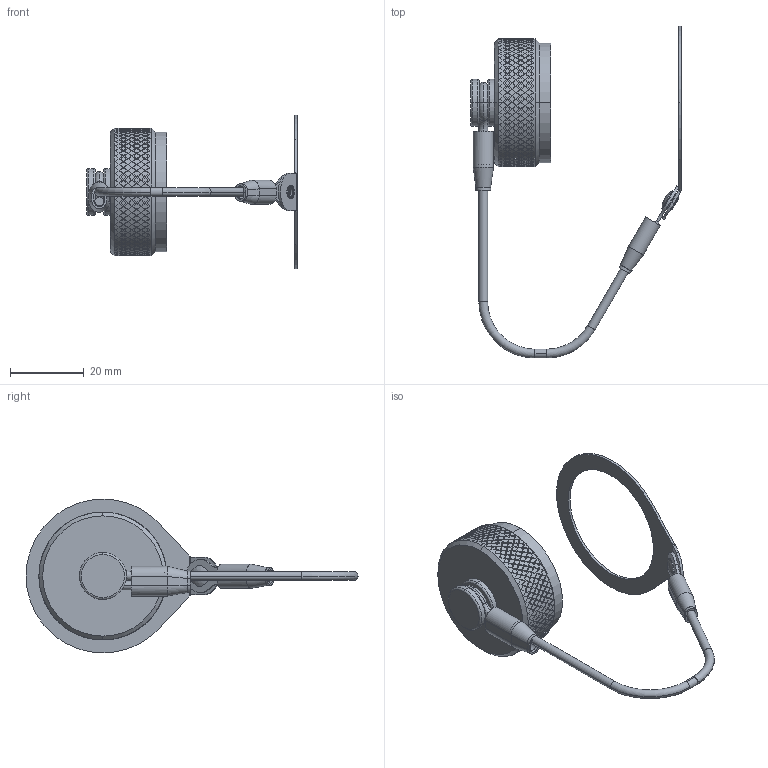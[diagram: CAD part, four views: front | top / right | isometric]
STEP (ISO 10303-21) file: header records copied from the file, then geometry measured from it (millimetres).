
FILE_DESCRIPTION (( 'STEP AP214' ), '1' );
FILE_NAME ('Q38DC-RJX-17-R0.STEP', '2026-04-22T20:28:23', ( '' ), ( '' ), 'SwSTEP 2.0', 'SolidWorks 2024', '' );
FILE_SCHEMA (( 'AUTOMOTIVE_DESIGN' ));
Length unit declared in the file: inch
Products named in the file (11): Q38DC-RJX-17-R0; Lanyard Assembly Q38_Q38DC-RJX-17; SW-XRXX_SW-BR17; Q38-XX48-X_Q38-1748-X; LN-06-07-13_Q38DC-RJX-17; SW-349_SW-349; Q38-XX29-P_17R; HEAT SHRINK_HS-125-625S; SW-348; HEAT SHRINK_HS-250X625_SW-348; SW-347
Assembly tree (10 placements, depth 3):
  Q38DC-RJX-17-R0
    Q38-XX48-X_Q38-1748-X
    Lanyard Assembly Q38_Q38DC-RJX-17
      LN-06-07-13_Q38DC-RJX-17
      SW-348
      HEAT SHRINK_HS-250X625_SW-348
      SW-347
      HEAT SHRINK_HS-125-625S
      SW-349_SW-349
      SW-XRXX_SW-BR17
    Q38-XX29-P_17R
Bounding box: 56.9 x 89.77 x 41.6 mm (x, y, z)
Volume: 7753.9 mm3; surface area: 10819.7 mm2
Topology: 9 solids, 9 shells, 2672 faces, 6594 edges, 4369 vertices
Faces by surface type: plane 2035, cylinder 587, torus 26, bspline 16, cone 6, sphere 2
Entity records: 79445 total; most frequent: CARTESIAN_POINT 27431, ORIENTED_EDGE 13188, DIRECTION 8146, EDGE_CURVE 6594, VERTEX_POINT 4369, EDGE_LOOP 3115, AXIS2_PLACEMENT_3D 3003, ADVANCED_FACE 2672
